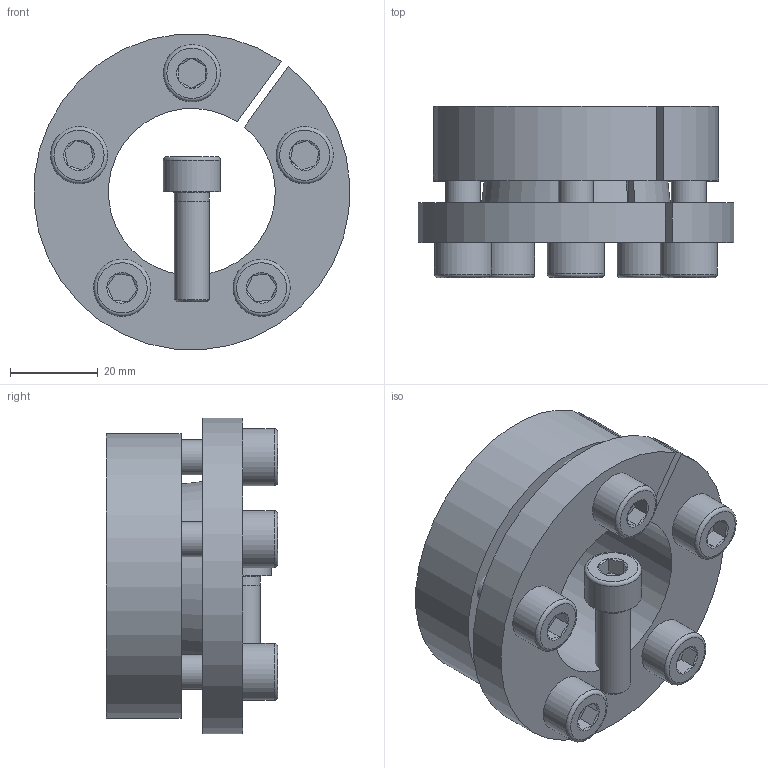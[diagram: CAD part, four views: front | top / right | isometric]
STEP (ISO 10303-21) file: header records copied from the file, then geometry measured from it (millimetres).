
FILE_DESCRIPTION( ( 'Unknown' ), '1' );
FILE_NAME( 'C:/Dokumente und Einstellungen/Sven/Desktop/15/KBS 15 - 38 x 65.stp', 'Unknown', ( 'Unknown' ), ( 'Unknown' ), 'XStep 1.0', 'Unknown', ' ' );
FILE_SCHEMA( ( 'automotive_design' ) );
Length unit declared in the file: millimetre
Products named in the file (3): Assem1; ISO EN DIN 4762 M8x25_20; KBS 15 - 38 x 65_0
Bounding box: 71.85 x 39 x 71.81 mm (x, y, z)
Volume: 129724.2 mm3; surface area: 52244.5 mm2
Topology: 8 solids, 8 shells, 194 faces, 404 edges, 250 vertices
Faces by surface type: plane 86, cylinder 50, cone 46, torus 12
Full cylindrical faces by diameter (mm): 6.647 x10, 7 x6, 8 x12, 9 x10, 13 x6
Entity records: 1522 total; most frequent: CARTESIAN_POINT 250, DIRECTION 232, ORIENTED_EDGE 170, AXIS2_PLACEMENT_3D 101, EDGE_LOOP 88, EDGE_CURVE 85, FACE_OUTER_BOUND 63, VERTEX_POINT 63
